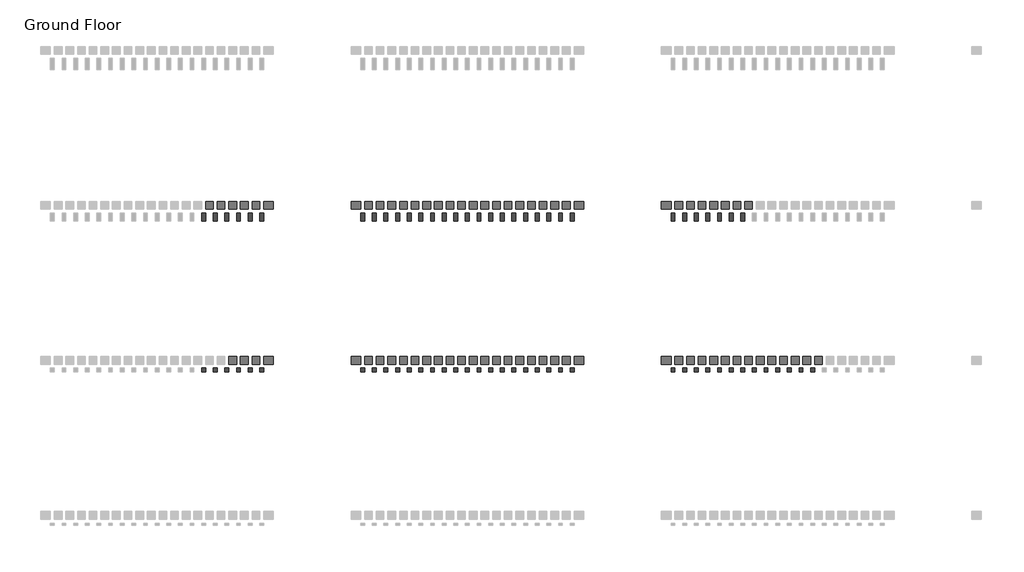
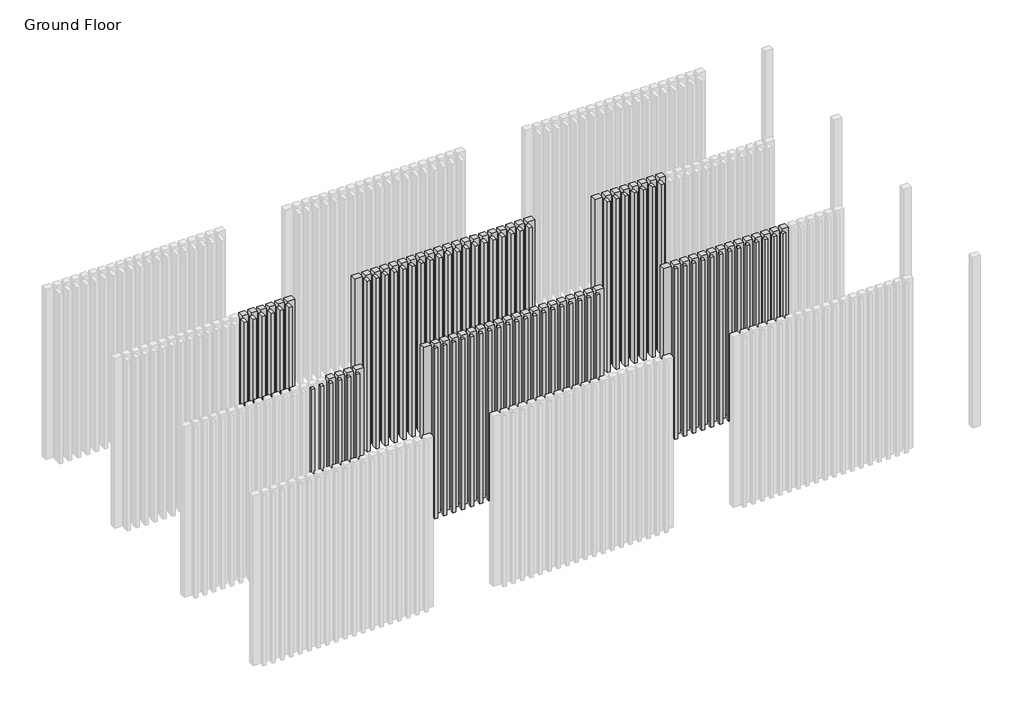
# One storey, part 14 of 350: 72 plates, 70 members.
"""IFC4 building model written with IfcOpenShell, lengths in millimetres."""

from ifc_helpers import new_model, si_unit, origin, place, context, project, spatial, transform, mapped, element, save
from components import rectangular_mullion_1e7650be, rectangular_mullion_e9fc8109, empty_system_panel_empty_a8601f27, empty_system_panel_empty_23ba90fe, empty_system_panel_empty_02e968fa

model = new_model("IFC4")

# Units and contexts
model_context = context("Model", 3, world=origin())
ifc_project = project(units=[si_unit("LENGTHUNIT", "METRE", prefix="MILLI")], contexts=[model_context])

# Site, building, storey
site = spatial("IfcSite", under=ifc_project)
building = spatial("IfcBuilding", under=site)
storey = spatial("IfcBuildingStorey", under=building, Name="Ground Floor", Elevation=0.0)

# Members
placement = place(None, origin())
rectangular_mullion_shape = rectangular_mullion_1e7650be(model_context)
element("IfcMember", 1, ObjectType="Rectangular Mullion : Batten_Aluminium_Modinex_AluBatten_50x50_Cedar", at=placement, inside=storey, context=model_context, shape_type="MappedRepresentation", body=[
    mapped(rectangular_mullion_shape, transform((8016.4361642, 20968.2978302, 0.0), x_axis=(1.0, 0.0, 0.0), y_axis=(0.0, -1.0, 0.0), z_axis=(0.0, 0.0, -1.0))),
])
element("IfcMember", 2, ObjectType="Rectangular Mullion : Batten_Aluminium_Modinex_AluBatten_50x50_Cedar", at=placement, inside=storey, context=model_context, shape_type="MappedRepresentation", body=[
    mapped(rectangular_mullion_shape, transform((8166.4361642, 20968.2978302, 0.0), x_axis=(1.0, 0.0, 0.0), y_axis=(0.0, -1.0, 0.0), z_axis=(0.0, 0.0, -1.0))),
])
element("IfcMember", 3, ObjectType="Rectangular Mullion : Batten_Aluminium_Modinex_AluBatten_50x50_Cedar", at=placement, inside=storey, context=model_context, shape_type="MappedRepresentation", body=[
    mapped(rectangular_mullion_shape, transform((8316.4361642, 20968.2978302, 0.0), x_axis=(1.0, 0.0, 0.0), y_axis=(0.0, -1.0, 0.0), z_axis=(0.0, 0.0, -1.0))),
])
element("IfcMember", 4, ObjectType="Rectangular Mullion : Batten_Aluminium_Modinex_AluBatten_50x50_Cedar", at=placement, inside=storey, context=model_context, shape_type="MappedRepresentation", body=[
    mapped(rectangular_mullion_shape, transform((8466.4361642, 20968.2978302, 0.0), x_axis=(1.0, 0.0, 0.0), y_axis=(0.0, -1.0, 0.0), z_axis=(0.0, 0.0, -1.0))),
])
element("IfcMember", 5, ObjectType="Rectangular Mullion : Batten_Aluminium_Modinex_AluBatten_50x50_Cedar", at=placement, inside=storey, context=model_context, shape_type="MappedRepresentation", body=[
    mapped(rectangular_mullion_shape, transform((8616.4361642, 20968.2978302, 0.0), x_axis=(1.0, 0.0, 0.0), y_axis=(0.0, -1.0, 0.0), z_axis=(0.0, 0.0, -1.0))),
])
element("IfcMember", 6, ObjectType="Rectangular Mullion : Batten_Aluminium_Modinex_AluBatten_50x50_Cedar", at=placement, inside=storey, context=model_context, shape_type="MappedRepresentation", body=[
    mapped(rectangular_mullion_shape, transform((8766.4361642, 20968.2978302, 0.0), x_axis=(1.0, 0.0, 0.0), y_axis=(0.0, -1.0, 0.0), z_axis=(0.0, 0.0, -1.0))),
])
rectangular_mullion_2_shape = rectangular_mullion_e9fc8109(model_context)
element("IfcMember", 7, ObjectType="Rectangular Mullion : Batten_Aluminium_Modinex_AluBatten_50x100_EnglishOak", at=placement, inside=storey, context=model_context, shape_type="MappedRepresentation", body=[
    mapped(rectangular_mullion_2_shape, transform((10066.4361642, 22968.2978302, 0.0), x_axis=(1.0, 0.0, 0.0), y_axis=(0.0, -1.0, 0.0), z_axis=(0.0, 0.0, -1.0))),
])
element("IfcMember", 8, ObjectType="Rectangular Mullion : Batten_Aluminium_Modinex_AluBatten_50x100_EnglishOak", at=placement, inside=storey, context=model_context, shape_type="MappedRepresentation", body=[
    mapped(rectangular_mullion_2_shape, transform((10216.4361642, 22968.2978302, 0.0), x_axis=(1.0, 0.0, 0.0), y_axis=(0.0, -1.0, 0.0), z_axis=(0.0, 0.0, -1.0))),
])
element("IfcMember", 9, ObjectType="Rectangular Mullion : Batten_Aluminium_Modinex_AluBatten_50x100_EnglishOak", at=placement, inside=storey, context=model_context, shape_type="MappedRepresentation", body=[
    mapped(rectangular_mullion_2_shape, transform((10366.4361642, 22968.2978302, 0.0), x_axis=(1.0, 0.0, 0.0), y_axis=(0.0, -1.0, 0.0), z_axis=(0.0, 0.0, -1.0))),
])
element("IfcMember", 10, ObjectType="Rectangular Mullion : Batten_Aluminium_Modinex_AluBatten_50x100_EnglishOak", at=placement, inside=storey, context=model_context, shape_type="MappedRepresentation", body=[
    mapped(rectangular_mullion_2_shape, transform((10516.4361642, 22968.2978302, 0.0), x_axis=(1.0, 0.0, 0.0), y_axis=(0.0, -1.0, 0.0), z_axis=(0.0, 0.0, -1.0))),
])
element("IfcMember", 11, ObjectType="Rectangular Mullion : Batten_Aluminium_Modinex_AluBatten_50x100_EnglishOak", at=placement, inside=storey, context=model_context, shape_type="MappedRepresentation", body=[
    mapped(rectangular_mullion_2_shape, transform((10666.4361642, 22968.2978302, 0.0), x_axis=(1.0, 0.0, 0.0), y_axis=(0.0, -1.0, 0.0), z_axis=(0.0, 0.0, -1.0))),
])
element("IfcMember", 12, ObjectType="Rectangular Mullion : Batten_Aluminium_Modinex_AluBatten_50x100_EnglishOak", at=placement, inside=storey, context=model_context, shape_type="MappedRepresentation", body=[
    mapped(rectangular_mullion_2_shape, transform((10816.4361642, 22968.2978302, 0.0), x_axis=(1.0, 0.0, 0.0), y_axis=(0.0, -1.0, 0.0), z_axis=(0.0, 0.0, -1.0))),
])
element("IfcMember", 13, ObjectType="Rectangular Mullion : Batten_Aluminium_Modinex_AluBatten_50x100_EnglishOak", at=placement, inside=storey, context=model_context, shape_type="MappedRepresentation", body=[
    mapped(rectangular_mullion_2_shape, transform((10966.4361642, 22968.2978302, 0.0), x_axis=(1.0, 0.0, 0.0), y_axis=(0.0, -1.0, 0.0), z_axis=(0.0, 0.0, -1.0))),
])
element("IfcMember", 14, ObjectType="Rectangular Mullion : Batten_Aluminium_Modinex_AluBatten_50x100_EnglishOak", at=placement, inside=storey, context=model_context, shape_type="MappedRepresentation", body=[
    mapped(rectangular_mullion_2_shape, transform((11116.4361642, 22968.2978302, 0.0), x_axis=(1.0, 0.0, 0.0), y_axis=(0.0, -1.0, 0.0), z_axis=(0.0, 0.0, -1.0))),
])
element("IfcMember", 15, ObjectType="Rectangular Mullion : Batten_Aluminium_Modinex_AluBatten_50x100_EnglishOak", at=placement, inside=storey, context=model_context, shape_type="MappedRepresentation", body=[
    mapped(rectangular_mullion_2_shape, transform((11266.4361642, 22968.2978302, 0.0), x_axis=(1.0, 0.0, 0.0), y_axis=(0.0, -1.0, 0.0), z_axis=(0.0, 0.0, -1.0))),
])
element("IfcMember", 16, ObjectType="Rectangular Mullion : Batten_Aluminium_Modinex_AluBatten_50x100_EnglishOak", at=placement, inside=storey, context=model_context, shape_type="MappedRepresentation", body=[
    mapped(rectangular_mullion_2_shape, transform((11416.4361642, 22968.2978302, 0.0), x_axis=(1.0, 0.0, 0.0), y_axis=(0.0, -1.0, 0.0), z_axis=(0.0, 0.0, -1.0))),
])
element("IfcMember", 17, ObjectType="Rectangular Mullion : Batten_Aluminium_Modinex_AluBatten_50x100_EnglishOak", at=placement, inside=storey, context=model_context, shape_type="MappedRepresentation", body=[
    mapped(rectangular_mullion_2_shape, transform((11566.4361642, 22968.2978302, 0.0), x_axis=(1.0, 0.0, 0.0), y_axis=(0.0, -1.0, 0.0), z_axis=(0.0, 0.0, -1.0))),
])
element("IfcMember", 18, ObjectType="Rectangular Mullion : Batten_Aluminium_Modinex_AluBatten_50x100_EnglishOak", at=placement, inside=storey, context=model_context, shape_type="MappedRepresentation", body=[
    mapped(rectangular_mullion_2_shape, transform((11716.4361642, 22968.2978302, 0.0), x_axis=(1.0, 0.0, 0.0), y_axis=(0.0, -1.0, 0.0), z_axis=(0.0, 0.0, -1.0))),
])
element("IfcMember", 19, ObjectType="Rectangular Mullion : Batten_Aluminium_Modinex_AluBatten_50x100_EnglishOak", at=placement, inside=storey, context=model_context, shape_type="MappedRepresentation", body=[
    mapped(rectangular_mullion_2_shape, transform((11866.4361642, 22968.2978302, 0.0), x_axis=(1.0, 0.0, 0.0), y_axis=(0.0, -1.0, 0.0), z_axis=(0.0, 0.0, -1.0))),
])
element("IfcMember", 20, ObjectType="Rectangular Mullion : Batten_Aluminium_Modinex_AluBatten_50x100_EnglishOak", at=placement, inside=storey, context=model_context, shape_type="MappedRepresentation", body=[
    mapped(rectangular_mullion_2_shape, transform((12016.4361642, 22968.2978302, 0.0), x_axis=(1.0, 0.0, 0.0), y_axis=(0.0, -1.0, 0.0), z_axis=(0.0, 0.0, -1.0))),
])
element("IfcMember", 21, ObjectType="Rectangular Mullion : Batten_Aluminium_Modinex_AluBatten_50x100_EnglishOak", at=placement, inside=storey, context=model_context, shape_type="MappedRepresentation", body=[
    mapped(rectangular_mullion_2_shape, transform((12166.4361642, 22968.2978302, 0.0), x_axis=(1.0, 0.0, 0.0), y_axis=(0.0, -1.0, 0.0), z_axis=(0.0, 0.0, -1.0))),
])
element("IfcMember", 22, ObjectType="Rectangular Mullion : Batten_Aluminium_Modinex_AluBatten_50x100_EnglishOak", at=placement, inside=storey, context=model_context, shape_type="MappedRepresentation", body=[
    mapped(rectangular_mullion_2_shape, transform((12316.4361642, 22968.2978302, 0.0), x_axis=(1.0, 0.0, 0.0), y_axis=(0.0, -1.0, 0.0), z_axis=(0.0, 0.0, -1.0))),
])
element("IfcMember", 23, ObjectType="Rectangular Mullion : Batten_Aluminium_Modinex_AluBatten_50x100_EnglishOak", at=placement, inside=storey, context=model_context, shape_type="MappedRepresentation", body=[
    mapped(rectangular_mullion_2_shape, transform((12466.4361642, 22968.2978302, 0.0), x_axis=(1.0, 0.0, 0.0), y_axis=(0.0, -1.0, 0.0), z_axis=(0.0, 0.0, -1.0))),
])
element("IfcMember", 24, ObjectType="Rectangular Mullion : Batten_Aluminium_Modinex_AluBatten_50x100_EnglishOak", at=placement, inside=storey, context=model_context, shape_type="MappedRepresentation", body=[
    mapped(rectangular_mullion_2_shape, transform((12616.4361642, 22968.2978302, 0.0), x_axis=(1.0, 0.0, 0.0), y_axis=(0.0, -1.0, 0.0), z_axis=(0.0, 0.0, -1.0))),
])
element("IfcMember", 25, ObjectType="Rectangular Mullion : Batten_Aluminium_Modinex_AluBatten_50x100_EnglishOak", at=placement, inside=storey, context=model_context, shape_type="MappedRepresentation", body=[
    mapped(rectangular_mullion_2_shape, transform((12766.4361642, 22968.2978302, 0.0), x_axis=(1.0, 0.0, 0.0), y_axis=(0.0, -1.0, 0.0), z_axis=(0.0, 0.0, -1.0))),
])
element("IfcMember", 26, ObjectType="Rectangular Mullion : Batten_Aluminium_Modinex_AluBatten_50x50_EnglishOak", at=placement, inside=storey, context=model_context, shape_type="MappedRepresentation", body=[
    mapped(rectangular_mullion_shape, transform((10066.4361642, 20968.2978302, 0.0), x_axis=(1.0, 0.0, 0.0), y_axis=(0.0, -1.0, 0.0), z_axis=(0.0, 0.0, -1.0))),
])
element("IfcMember", 27, ObjectType="Rectangular Mullion : Batten_Aluminium_Modinex_AluBatten_50x50_EnglishOak", at=placement, inside=storey, context=model_context, shape_type="MappedRepresentation", body=[
    mapped(rectangular_mullion_shape, transform((10216.4361642, 20968.2978302, 0.0), x_axis=(1.0, 0.0, 0.0), y_axis=(0.0, -1.0, 0.0), z_axis=(0.0, 0.0, -1.0))),
])
element("IfcMember", 28, ObjectType="Rectangular Mullion : Batten_Aluminium_Modinex_AluBatten_50x50_EnglishOak", at=placement, inside=storey, context=model_context, shape_type="MappedRepresentation", body=[
    mapped(rectangular_mullion_shape, transform((10366.4361642, 20968.2978302, 0.0), x_axis=(1.0, 0.0, 0.0), y_axis=(0.0, -1.0, 0.0), z_axis=(0.0, 0.0, -1.0))),
])
element("IfcMember", 29, ObjectType="Rectangular Mullion : Batten_Aluminium_Modinex_AluBatten_50x50_EnglishOak", at=placement, inside=storey, context=model_context, shape_type="MappedRepresentation", body=[
    mapped(rectangular_mullion_shape, transform((10516.4361642, 20968.2978302, 0.0), x_axis=(1.0, 0.0, 0.0), y_axis=(0.0, -1.0, 0.0), z_axis=(0.0, 0.0, -1.0))),
])
element("IfcMember", 30, ObjectType="Rectangular Mullion : Batten_Aluminium_Modinex_AluBatten_50x50_EnglishOak", at=placement, inside=storey, context=model_context, shape_type="MappedRepresentation", body=[
    mapped(rectangular_mullion_shape, transform((10666.4361642, 20968.2978302, 0.0), x_axis=(1.0, 0.0, 0.0), y_axis=(0.0, -1.0, 0.0), z_axis=(0.0, 0.0, -1.0))),
])
element("IfcMember", 31, ObjectType="Rectangular Mullion : Batten_Aluminium_Modinex_AluBatten_50x50_EnglishOak", at=placement, inside=storey, context=model_context, shape_type="MappedRepresentation", body=[
    mapped(rectangular_mullion_shape, transform((10816.4361642, 20968.2978302, 0.0), x_axis=(1.0, 0.0, 0.0), y_axis=(0.0, -1.0, 0.0), z_axis=(0.0, 0.0, -1.0))),
])
element("IfcMember", 32, ObjectType="Rectangular Mullion : Batten_Aluminium_Modinex_AluBatten_50x50_EnglishOak", at=placement, inside=storey, context=model_context, shape_type="MappedRepresentation", body=[
    mapped(rectangular_mullion_shape, transform((10966.4361642, 20968.2978302, 0.0), x_axis=(1.0, 0.0, 0.0), y_axis=(0.0, -1.0, 0.0), z_axis=(0.0, 0.0, -1.0))),
])
element("IfcMember", 33, ObjectType="Rectangular Mullion : Batten_Aluminium_Modinex_AluBatten_50x50_EnglishOak", at=placement, inside=storey, context=model_context, shape_type="MappedRepresentation", body=[
    mapped(rectangular_mullion_shape, transform((11116.4361642, 20968.2978302, 0.0), x_axis=(1.0, 0.0, 0.0), y_axis=(0.0, -1.0, 0.0), z_axis=(0.0, 0.0, -1.0))),
])
element("IfcMember", 34, ObjectType="Rectangular Mullion : Batten_Aluminium_Modinex_AluBatten_50x50_EnglishOak", at=placement, inside=storey, context=model_context, shape_type="MappedRepresentation", body=[
    mapped(rectangular_mullion_shape, transform((11266.4361642, 20968.2978302, 0.0), x_axis=(1.0, 0.0, 0.0), y_axis=(0.0, -1.0, 0.0), z_axis=(0.0, 0.0, -1.0))),
])
element("IfcMember", 35, ObjectType="Rectangular Mullion : Batten_Aluminium_Modinex_AluBatten_50x50_EnglishOak", at=placement, inside=storey, context=model_context, shape_type="MappedRepresentation", body=[
    mapped(rectangular_mullion_shape, transform((11416.4361642, 20968.2978302, 0.0), x_axis=(1.0, 0.0, 0.0), y_axis=(0.0, -1.0, 0.0), z_axis=(0.0, 0.0, -1.0))),
])
element("IfcMember", 36, ObjectType="Rectangular Mullion : Batten_Aluminium_Modinex_AluBatten_50x50_EnglishOak", at=placement, inside=storey, context=model_context, shape_type="MappedRepresentation", body=[
    mapped(rectangular_mullion_shape, transform((11566.4361642, 20968.2978302, 0.0), x_axis=(1.0, 0.0, 0.0), y_axis=(0.0, -1.0, 0.0), z_axis=(0.0, 0.0, -1.0))),
])
element("IfcMember", 37, ObjectType="Rectangular Mullion : Batten_Aluminium_Modinex_AluBatten_50x50_EnglishOak", at=placement, inside=storey, context=model_context, shape_type="MappedRepresentation", body=[
    mapped(rectangular_mullion_shape, transform((11716.4361642, 20968.2978302, 0.0), x_axis=(1.0, 0.0, 0.0), y_axis=(0.0, -1.0, 0.0), z_axis=(0.0, 0.0, -1.0))),
])
element("IfcMember", 38, ObjectType="Rectangular Mullion : Batten_Aluminium_Modinex_AluBatten_50x50_EnglishOak", at=placement, inside=storey, context=model_context, shape_type="MappedRepresentation", body=[
    mapped(rectangular_mullion_shape, transform((11866.4361642, 20968.2978302, 0.0), x_axis=(1.0, 0.0, 0.0), y_axis=(0.0, -1.0, 0.0), z_axis=(0.0, 0.0, -1.0))),
])
element("IfcMember", 39, ObjectType="Rectangular Mullion : Batten_Aluminium_Modinex_AluBatten_50x50_EnglishOak", at=placement, inside=storey, context=model_context, shape_type="MappedRepresentation", body=[
    mapped(rectangular_mullion_shape, transform((12016.4361642, 20968.2978302, 0.0), x_axis=(1.0, 0.0, 0.0), y_axis=(0.0, -1.0, 0.0), z_axis=(0.0, 0.0, -1.0))),
])
element("IfcMember", 40, ObjectType="Rectangular Mullion : Batten_Aluminium_Modinex_AluBatten_50x50_EnglishOak", at=placement, inside=storey, context=model_context, shape_type="MappedRepresentation", body=[
    mapped(rectangular_mullion_shape, transform((12166.4361642, 20968.2978302, 0.0), x_axis=(1.0, 0.0, 0.0), y_axis=(0.0, -1.0, 0.0), z_axis=(0.0, 0.0, -1.0))),
])
element("IfcMember", 41, ObjectType="Rectangular Mullion : Batten_Aluminium_Modinex_AluBatten_50x50_EnglishOak", at=placement, inside=storey, context=model_context, shape_type="MappedRepresentation", body=[
    mapped(rectangular_mullion_shape, transform((12316.4361642, 20968.2978302, 0.0), x_axis=(1.0, 0.0, 0.0), y_axis=(0.0, -1.0, 0.0), z_axis=(0.0, 0.0, -1.0))),
])
element("IfcMember", 42, ObjectType="Rectangular Mullion : Batten_Aluminium_Modinex_AluBatten_50x50_EnglishOak", at=placement, inside=storey, context=model_context, shape_type="MappedRepresentation", body=[
    mapped(rectangular_mullion_shape, transform((12466.4361642, 20968.2978302, 0.0), x_axis=(1.0, 0.0, 0.0), y_axis=(0.0, -1.0, 0.0), z_axis=(0.0, 0.0, -1.0))),
])
element("IfcMember", 43, ObjectType="Rectangular Mullion : Batten_Aluminium_Modinex_AluBatten_50x50_EnglishOak", at=placement, inside=storey, context=model_context, shape_type="MappedRepresentation", body=[
    mapped(rectangular_mullion_shape, transform((12616.4361642, 20968.2978302, 0.0), x_axis=(1.0, 0.0, 0.0), y_axis=(0.0, -1.0, 0.0), z_axis=(0.0, 0.0, -1.0))),
])
element("IfcMember", 44, ObjectType="Rectangular Mullion : Batten_Aluminium_Modinex_AluBatten_50x50_EnglishOak", at=placement, inside=storey, context=model_context, shape_type="MappedRepresentation", body=[
    mapped(rectangular_mullion_shape, transform((12766.4361642, 20968.2978302, 0.0), x_axis=(1.0, 0.0, 0.0), y_axis=(0.0, -1.0, 0.0), z_axis=(0.0, 0.0, -1.0))),
])
element("IfcMember", 45, ObjectType="Rectangular Mullion : Batten_Aluminium_Modinex_AluBatten_50x50_SpottedGum", at=placement, inside=storey, context=model_context, shape_type="MappedRepresentation", body=[
    mapped(rectangular_mullion_shape, transform((14066.4361642, 20968.2978302, 0.0), x_axis=(1.0, 0.0, 0.0), y_axis=(0.0, -1.0, 0.0), z_axis=(0.0, 0.0, -1.0))),
])
element("IfcMember", 46, ObjectType="Rectangular Mullion : Batten_Aluminium_Modinex_AluBatten_50x50_SpottedGum", at=placement, inside=storey, context=model_context, shape_type="MappedRepresentation", body=[
    mapped(rectangular_mullion_shape, transform((14216.4361642, 20968.2978302, 0.0), x_axis=(1.0, 0.0, 0.0), y_axis=(0.0, -1.0, 0.0), z_axis=(0.0, 0.0, -1.0))),
])
element("IfcMember", 47, ObjectType="Rectangular Mullion : Batten_Aluminium_Modinex_AluBatten_50x50_SpottedGum", at=placement, inside=storey, context=model_context, shape_type="MappedRepresentation", body=[
    mapped(rectangular_mullion_shape, transform((14366.4361642, 20968.2978302, 0.0), x_axis=(1.0, 0.0, 0.0), y_axis=(0.0, -1.0, 0.0), z_axis=(0.0, 0.0, -1.0))),
])
element("IfcMember", 48, ObjectType="Rectangular Mullion : Batten_Aluminium_Modinex_AluBatten_50x50_SpottedGum", at=placement, inside=storey, context=model_context, shape_type="MappedRepresentation", body=[
    mapped(rectangular_mullion_shape, transform((14516.4361642, 20968.2978302, 0.0), x_axis=(1.0, 0.0, 0.0), y_axis=(0.0, -1.0, 0.0), z_axis=(0.0, 0.0, -1.0))),
])
element("IfcMember", 49, ObjectType="Rectangular Mullion : Batten_Aluminium_Modinex_AluBatten_50x50_SpottedGum", at=placement, inside=storey, context=model_context, shape_type="MappedRepresentation", body=[
    mapped(rectangular_mullion_shape, transform((14666.4361642, 20968.2978302, 0.0), x_axis=(1.0, 0.0, 0.0), y_axis=(0.0, -1.0, 0.0), z_axis=(0.0, 0.0, -1.0))),
])
element("IfcMember", 50, ObjectType="Rectangular Mullion : Batten_Aluminium_Modinex_AluBatten_50x50_SpottedGum", at=placement, inside=storey, context=model_context, shape_type="MappedRepresentation", body=[
    mapped(rectangular_mullion_shape, transform((14816.4361642, 20968.2978302, 0.0), x_axis=(1.0, 0.0, 0.0), y_axis=(0.0, -1.0, 0.0), z_axis=(0.0, 0.0, -1.0))),
])
element("IfcMember", 51, ObjectType="Rectangular Mullion : Batten_Aluminium_Modinex_AluBatten_50x50_SpottedGum", at=placement, inside=storey, context=model_context, shape_type="MappedRepresentation", body=[
    mapped(rectangular_mullion_shape, transform((14966.4361642, 20968.2978302, 0.0), x_axis=(1.0, 0.0, 0.0), y_axis=(0.0, -1.0, 0.0), z_axis=(0.0, 0.0, -1.0))),
])
element("IfcMember", 52, ObjectType="Rectangular Mullion : Batten_Aluminium_Modinex_AluBatten_50x50_SpottedGum", at=placement, inside=storey, context=model_context, shape_type="MappedRepresentation", body=[
    mapped(rectangular_mullion_shape, transform((15116.4361642, 20968.2978302, 0.0), x_axis=(1.0, 0.0, 0.0), y_axis=(0.0, -1.0, 0.0), z_axis=(0.0, 0.0, -1.0))),
])
element("IfcMember", 53, ObjectType="Rectangular Mullion : Batten_Aluminium_Modinex_AluBatten_50x50_SpottedGum", at=placement, inside=storey, context=model_context, shape_type="MappedRepresentation", body=[
    mapped(rectangular_mullion_shape, transform((15266.4361642, 20968.2978302, 0.0), x_axis=(1.0, 0.0, 0.0), y_axis=(0.0, -1.0, 0.0), z_axis=(0.0, 0.0, -1.0))),
])
element("IfcMember", 54, ObjectType="Rectangular Mullion : Batten_Aluminium_Modinex_AluBatten_50x50_SpottedGum", at=placement, inside=storey, context=model_context, shape_type="MappedRepresentation", body=[
    mapped(rectangular_mullion_shape, transform((15416.4361642, 20968.2978302, 0.0), x_axis=(1.0, 0.0, 0.0), y_axis=(0.0, -1.0, 0.0), z_axis=(0.0, 0.0, -1.0))),
])
element("IfcMember", 55, ObjectType="Rectangular Mullion : Batten_Aluminium_Modinex_AluBatten_50x50_SpottedGum", at=placement, inside=storey, context=model_context, shape_type="MappedRepresentation", body=[
    mapped(rectangular_mullion_shape, transform((15566.4361642, 20968.2978302, 0.0), x_axis=(1.0, 0.0, 0.0), y_axis=(0.0, -1.0, 0.0), z_axis=(0.0, 0.0, -1.0))),
])
element("IfcMember", 56, ObjectType="Rectangular Mullion : Batten_Aluminium_Modinex_AluBatten_50x50_SpottedGum", at=placement, inside=storey, context=model_context, shape_type="MappedRepresentation", body=[
    mapped(rectangular_mullion_shape, transform((15716.4361642, 20968.2978302, 0.0), x_axis=(1.0, 0.0, 0.0), y_axis=(0.0, -1.0, 0.0), z_axis=(0.0, 0.0, -1.0))),
])
element("IfcMember", 57, ObjectType="Rectangular Mullion : Batten_Aluminium_Modinex_AluBatten_50x50_SpottedGum", at=placement, inside=storey, context=model_context, shape_type="MappedRepresentation", body=[
    mapped(rectangular_mullion_shape, transform((15866.4361642, 20968.2978302, 0.0), x_axis=(1.0, 0.0, 0.0), y_axis=(0.0, -1.0, 0.0), z_axis=(0.0, 0.0, -1.0))),
])
element("IfcMember", 58, ObjectType="Rectangular Mullion : Batten_Aluminium_Modinex_AluBatten_50x100_Cedar", at=placement, inside=storey, context=model_context, shape_type="MappedRepresentation", body=[
    mapped(rectangular_mullion_2_shape, transform((8016.4361642, 22968.2978302, 0.0), x_axis=(1.0, 0.0, 0.0), y_axis=(0.0, -1.0, 0.0), z_axis=(0.0, 0.0, -1.0))),
])
element("IfcMember", 59, ObjectType="Rectangular Mullion : Batten_Aluminium_Modinex_AluBatten_50x100_Cedar", at=placement, inside=storey, context=model_context, shape_type="MappedRepresentation", body=[
    mapped(rectangular_mullion_2_shape, transform((8166.4361642, 22968.2978302, 0.0), x_axis=(1.0, 0.0, 0.0), y_axis=(0.0, -1.0, 0.0), z_axis=(0.0, 0.0, -1.0))),
])
element("IfcMember", 60, ObjectType="Rectangular Mullion : Batten_Aluminium_Modinex_AluBatten_50x100_Cedar", at=placement, inside=storey, context=model_context, shape_type="MappedRepresentation", body=[
    mapped(rectangular_mullion_2_shape, transform((8316.4361642, 22968.2978302, 0.0), x_axis=(1.0, 0.0, 0.0), y_axis=(0.0, -1.0, 0.0), z_axis=(0.0, 0.0, -1.0))),
])
element("IfcMember", 61, ObjectType="Rectangular Mullion : Batten_Aluminium_Modinex_AluBatten_50x100_Cedar", at=placement, inside=storey, context=model_context, shape_type="MappedRepresentation", body=[
    mapped(rectangular_mullion_2_shape, transform((8466.4361642, 22968.2978302, 0.0), x_axis=(1.0, 0.0, 0.0), y_axis=(0.0, -1.0, 0.0), z_axis=(0.0, 0.0, -1.0))),
])
element("IfcMember", 62, ObjectType="Rectangular Mullion : Batten_Aluminium_Modinex_AluBatten_50x100_Cedar", at=placement, inside=storey, context=model_context, shape_type="MappedRepresentation", body=[
    mapped(rectangular_mullion_2_shape, transform((8616.4361642, 22968.2978302, 0.0), x_axis=(1.0, 0.0, 0.0), y_axis=(0.0, -1.0, 0.0), z_axis=(0.0, 0.0, -1.0))),
])
element("IfcMember", 63, ObjectType="Rectangular Mullion : Batten_Aluminium_Modinex_AluBatten_50x100_Cedar", at=placement, inside=storey, context=model_context, shape_type="MappedRepresentation", body=[
    mapped(rectangular_mullion_2_shape, transform((8766.4361642, 22968.2978302, 0.0), x_axis=(1.0, 0.0, 0.0), y_axis=(0.0, -1.0, 0.0), z_axis=(0.0, 0.0, -1.0))),
])
element("IfcMember", 64, ObjectType="Rectangular Mullion : Batten_Aluminium_Modinex_AluBatten_50x100_SpottedGum", at=placement, inside=storey, context=model_context, shape_type="MappedRepresentation", body=[
    mapped(rectangular_mullion_2_shape, transform((14066.4361642, 22968.2978302, 0.0), x_axis=(1.0, 0.0, 0.0), y_axis=(0.0, -1.0, 0.0), z_axis=(0.0, 0.0, -1.0))),
])
element("IfcMember", 65, ObjectType="Rectangular Mullion : Batten_Aluminium_Modinex_AluBatten_50x100_SpottedGum", at=placement, inside=storey, context=model_context, shape_type="MappedRepresentation", body=[
    mapped(rectangular_mullion_2_shape, transform((14216.4361642, 22968.2978302, 0.0), x_axis=(1.0, 0.0, 0.0), y_axis=(0.0, -1.0, 0.0), z_axis=(0.0, 0.0, -1.0))),
])
element("IfcMember", 66, ObjectType="Rectangular Mullion : Batten_Aluminium_Modinex_AluBatten_50x100_SpottedGum", at=placement, inside=storey, context=model_context, shape_type="MappedRepresentation", body=[
    mapped(rectangular_mullion_2_shape, transform((14366.4361642, 22968.2978302, 0.0), x_axis=(1.0, 0.0, 0.0), y_axis=(0.0, -1.0, 0.0), z_axis=(0.0, 0.0, -1.0))),
])
element("IfcMember", 67, ObjectType="Rectangular Mullion : Batten_Aluminium_Modinex_AluBatten_50x100_SpottedGum", at=placement, inside=storey, context=model_context, shape_type="MappedRepresentation", body=[
    mapped(rectangular_mullion_2_shape, transform((14516.4361642, 22968.2978302, 0.0), x_axis=(1.0, 0.0, 0.0), y_axis=(0.0, -1.0, 0.0), z_axis=(0.0, 0.0, -1.0))),
])
element("IfcMember", 68, ObjectType="Rectangular Mullion : Batten_Aluminium_Modinex_AluBatten_50x100_SpottedGum", at=placement, inside=storey, context=model_context, shape_type="MappedRepresentation", body=[
    mapped(rectangular_mullion_2_shape, transform((14666.4361642, 22968.2978302, 0.0), x_axis=(1.0, 0.0, 0.0), y_axis=(0.0, -1.0, 0.0), z_axis=(0.0, 0.0, -1.0))),
])
element("IfcMember", 69, ObjectType="Rectangular Mullion : Batten_Aluminium_Modinex_AluBatten_50x100_SpottedGum", at=placement, inside=storey, context=model_context, shape_type="MappedRepresentation", body=[
    mapped(rectangular_mullion_2_shape, transform((14816.4361642, 22968.2978302, 0.0), x_axis=(1.0, 0.0, 0.0), y_axis=(0.0, -1.0, 0.0), z_axis=(0.0, 0.0, -1.0))),
])
element("IfcMember", 70, ObjectType="Rectangular Mullion : Batten_Aluminium_Modinex_AluBatten_50x100_SpottedGum", at=placement, inside=storey, context=model_context, shape_type="MappedRepresentation", body=[
    mapped(rectangular_mullion_2_shape, transform((14966.4361642, 22968.2978302, 0.0), x_axis=(1.0, 0.0, 0.0), y_axis=(0.0, -1.0, 0.0), z_axis=(0.0, 0.0, -1.0))),
])

# Plates
empty_system_panel_empty_shape = empty_system_panel_empty_a8601f27(model_context)
element("IfcPlate", 71, ObjectType="Empty System Panel : Empty", at=placement, inside=storey, context=model_context, shape_type="MappedRepresentation", body=[
    mapped(empty_system_panel_empty_shape, transform((9978.9361641, 20968.2978302, 0.0), x_axis=(1.0, 0.0, 0.0), y_axis=(0.0, 1.0, 0.0), z_axis=(0.0, 0.0, 1.0))),
])
element("IfcPlate", 72, ObjectType="Empty System Panel : Empty", at=placement, inside=storey, context=model_context, shape_type="MappedRepresentation", body=[
    mapped(empty_system_panel_empty_shape, transform((13978.9361641, 20968.2978302, 0.0), x_axis=(1.0, 0.0, 0.0), y_axis=(0.0, 1.0, 0.0), z_axis=(0.0, 0.0, 1.0))),
])
element("IfcPlate", 73, ObjectType="Empty System Panel : Empty", at=placement, inside=storey, context=model_context, shape_type="MappedRepresentation", body=[
    mapped(empty_system_panel_empty_shape, transform((9978.9361641, 22968.2978302, 0.0), x_axis=(1.0, 0.0, 0.0), y_axis=(0.0, 1.0, 0.0), z_axis=(0.0, 0.0, 1.0))),
])
element("IfcPlate", 74, ObjectType="Empty System Panel : Empty", at=placement, inside=storey, context=model_context, shape_type="MappedRepresentation", body=[
    mapped(empty_system_panel_empty_shape, transform((13978.9361641, 22968.2978302, 0.0), x_axis=(1.0, 0.0, 0.0), y_axis=(0.0, 1.0, 0.0), z_axis=(0.0, 0.0, 1.0))),
])
empty_system_panel_empty_2_shape = empty_system_panel_empty_23ba90fe(model_context)
element("IfcPlate", 75, ObjectType="Empty System Panel : Empty", at=placement, inside=storey, context=model_context, shape_type="MappedRepresentation", body=[
    mapped(empty_system_panel_empty_2_shape, transform((8391.4361642, 20968.2978302, 0.0), x_axis=(1.0, 0.0, 0.0), y_axis=(0.0, 1.0, 0.0), z_axis=(0.0, 0.0, 1.0))),
])
element("IfcPlate", 76, ObjectType="Empty System Panel : Empty", at=placement, inside=storey, context=model_context, shape_type="MappedRepresentation", body=[
    mapped(empty_system_panel_empty_2_shape, transform((8541.4361642, 20968.2978302, 0.0), x_axis=(1.0, 0.0, 0.0), y_axis=(0.0, 1.0, 0.0), z_axis=(0.0, 0.0, 1.0))),
])
element("IfcPlate", 77, ObjectType="Empty System Panel : Empty", at=placement, inside=storey, context=model_context, shape_type="MappedRepresentation", body=[
    mapped(empty_system_panel_empty_2_shape, transform((8691.4361642, 20968.2978302, 0.0), x_axis=(1.0, 0.0, 0.0), y_axis=(0.0, 1.0, 0.0), z_axis=(0.0, 0.0, 1.0))),
])
element("IfcPlate", 78, ObjectType="Empty System Panel : Empty", at=placement, inside=storey, context=model_context, shape_type="MappedRepresentation", body=[
    mapped(empty_system_panel_empty_2_shape, transform((10141.4361642, 20968.2978302, 0.0), x_axis=(1.0, 0.0, 0.0), y_axis=(0.0, 1.0, 0.0), z_axis=(0.0, 0.0, 1.0))),
])
element("IfcPlate", 79, ObjectType="Empty System Panel : Empty", at=placement, inside=storey, context=model_context, shape_type="MappedRepresentation", body=[
    mapped(empty_system_panel_empty_2_shape, transform((10291.4361642, 20968.2978302, 0.0), x_axis=(1.0, 0.0, 0.0), y_axis=(0.0, 1.0, 0.0), z_axis=(0.0, 0.0, 1.0))),
])
element("IfcPlate", 80, ObjectType="Empty System Panel : Empty", at=placement, inside=storey, context=model_context, shape_type="MappedRepresentation", body=[
    mapped(empty_system_panel_empty_2_shape, transform((10441.4361642, 20968.2978302, 0.0), x_axis=(1.0, 0.0, 0.0), y_axis=(0.0, 1.0, 0.0), z_axis=(0.0, 0.0, 1.0))),
])
element("IfcPlate", 81, ObjectType="Empty System Panel : Empty", at=placement, inside=storey, context=model_context, shape_type="MappedRepresentation", body=[
    mapped(empty_system_panel_empty_2_shape, transform((10591.4361642, 20968.2978302, 0.0), x_axis=(1.0, 0.0, 0.0), y_axis=(0.0, 1.0, 0.0), z_axis=(0.0, 0.0, 1.0))),
])
element("IfcPlate", 82, ObjectType="Empty System Panel : Empty", at=placement, inside=storey, context=model_context, shape_type="MappedRepresentation", body=[
    mapped(empty_system_panel_empty_2_shape, transform((10741.4361642, 20968.2978302, 0.0), x_axis=(1.0, 0.0, 0.0), y_axis=(0.0, 1.0, 0.0), z_axis=(0.0, 0.0, 1.0))),
])
element("IfcPlate", 83, ObjectType="Empty System Panel : Empty", at=placement, inside=storey, context=model_context, shape_type="MappedRepresentation", body=[
    mapped(empty_system_panel_empty_2_shape, transform((10891.4361642, 20968.2978302, 0.0), x_axis=(1.0, 0.0, 0.0), y_axis=(0.0, 1.0, 0.0), z_axis=(0.0, 0.0, 1.0))),
])
element("IfcPlate", 84, ObjectType="Empty System Panel : Empty", at=placement, inside=storey, context=model_context, shape_type="MappedRepresentation", body=[
    mapped(empty_system_panel_empty_2_shape, transform((11041.4361642, 20968.2978302, 0.0), x_axis=(1.0, 0.0, 0.0), y_axis=(0.0, 1.0, 0.0), z_axis=(0.0, 0.0, 1.0))),
])
element("IfcPlate", 85, ObjectType="Empty System Panel : Empty", at=placement, inside=storey, context=model_context, shape_type="MappedRepresentation", body=[
    mapped(empty_system_panel_empty_2_shape, transform((11191.4361642, 20968.2978302, 0.0), x_axis=(1.0, 0.0, 0.0), y_axis=(0.0, 1.0, 0.0), z_axis=(0.0, 0.0, 1.0))),
])
element("IfcPlate", 86, ObjectType="Empty System Panel : Empty", at=placement, inside=storey, context=model_context, shape_type="MappedRepresentation", body=[
    mapped(empty_system_panel_empty_2_shape, transform((11341.4361642, 20968.2978302, 0.0), x_axis=(1.0, 0.0, 0.0), y_axis=(0.0, 1.0, 0.0), z_axis=(0.0, 0.0, 1.0))),
])
element("IfcPlate", 87, ObjectType="Empty System Panel : Empty", at=placement, inside=storey, context=model_context, shape_type="MappedRepresentation", body=[
    mapped(empty_system_panel_empty_2_shape, transform((11491.4361642, 20968.2978302, 0.0), x_axis=(1.0, 0.0, 0.0), y_axis=(0.0, 1.0, 0.0), z_axis=(0.0, 0.0, 1.0))),
])
element("IfcPlate", 88, ObjectType="Empty System Panel : Empty", at=placement, inside=storey, context=model_context, shape_type="MappedRepresentation", body=[
    mapped(empty_system_panel_empty_2_shape, transform((11641.4361642, 20968.2978302, 0.0), x_axis=(1.0, 0.0, 0.0), y_axis=(0.0, 1.0, 0.0), z_axis=(0.0, 0.0, 1.0))),
])
element("IfcPlate", 89, ObjectType="Empty System Panel : Empty", at=placement, inside=storey, context=model_context, shape_type="MappedRepresentation", body=[
    mapped(empty_system_panel_empty_2_shape, transform((11791.4361642, 20968.2978302, 0.0), x_axis=(1.0, 0.0, 0.0), y_axis=(0.0, 1.0, 0.0), z_axis=(0.0, 0.0, 1.0))),
])
element("IfcPlate", 90, ObjectType="Empty System Panel : Empty", at=placement, inside=storey, context=model_context, shape_type="MappedRepresentation", body=[
    mapped(empty_system_panel_empty_2_shape, transform((11941.4361642, 20968.2978302, 0.0), x_axis=(1.0, 0.0, 0.0), y_axis=(0.0, 1.0, 0.0), z_axis=(0.0, 0.0, 1.0))),
])
element("IfcPlate", 91, ObjectType="Empty System Panel : Empty", at=placement, inside=storey, context=model_context, shape_type="MappedRepresentation", body=[
    mapped(empty_system_panel_empty_2_shape, transform((12091.4361642, 20968.2978302, 0.0), x_axis=(1.0, 0.0, 0.0), y_axis=(0.0, 1.0, 0.0), z_axis=(0.0, 0.0, 1.0))),
])
element("IfcPlate", 92, ObjectType="Empty System Panel : Empty", at=placement, inside=storey, context=model_context, shape_type="MappedRepresentation", body=[
    mapped(empty_system_panel_empty_2_shape, transform((12241.4361642, 20968.2978302, 0.0), x_axis=(1.0, 0.0, 0.0), y_axis=(0.0, 1.0, 0.0), z_axis=(0.0, 0.0, 1.0))),
])
element("IfcPlate", 93, ObjectType="Empty System Panel : Empty", at=placement, inside=storey, context=model_context, shape_type="MappedRepresentation", body=[
    mapped(empty_system_panel_empty_2_shape, transform((12391.4361642, 20968.2978302, 0.0), x_axis=(1.0, 0.0, 0.0), y_axis=(0.0, 1.0, 0.0), z_axis=(0.0, 0.0, 1.0))),
])
element("IfcPlate", 94, ObjectType="Empty System Panel : Empty", at=placement, inside=storey, context=model_context, shape_type="MappedRepresentation", body=[
    mapped(empty_system_panel_empty_2_shape, transform((12541.4361642, 20968.2978302, 0.0), x_axis=(1.0, 0.0, 0.0), y_axis=(0.0, 1.0, 0.0), z_axis=(0.0, 0.0, 1.0))),
])
element("IfcPlate", 95, ObjectType="Empty System Panel : Empty", at=placement, inside=storey, context=model_context, shape_type="MappedRepresentation", body=[
    mapped(empty_system_panel_empty_2_shape, transform((12691.4361642, 20968.2978302, 0.0), x_axis=(1.0, 0.0, 0.0), y_axis=(0.0, 1.0, 0.0), z_axis=(0.0, 0.0, 1.0))),
])
element("IfcPlate", 96, ObjectType="Empty System Panel : Empty", at=placement, inside=storey, context=model_context, shape_type="MappedRepresentation", body=[
    mapped(empty_system_panel_empty_2_shape, transform((14141.4361642, 20968.2978302, 0.0), x_axis=(1.0, 0.0, 0.0), y_axis=(0.0, 1.0, 0.0), z_axis=(0.0, 0.0, 1.0))),
])
element("IfcPlate", 97, ObjectType="Empty System Panel : Empty", at=placement, inside=storey, context=model_context, shape_type="MappedRepresentation", body=[
    mapped(empty_system_panel_empty_2_shape, transform((14291.4361642, 20968.2978302, 0.0), x_axis=(1.0, 0.0, 0.0), y_axis=(0.0, 1.0, 0.0), z_axis=(0.0, 0.0, 1.0))),
])
element("IfcPlate", 98, ObjectType="Empty System Panel : Empty", at=placement, inside=storey, context=model_context, shape_type="MappedRepresentation", body=[
    mapped(empty_system_panel_empty_2_shape, transform((14441.4361642, 20968.2978302, 0.0), x_axis=(1.0, 0.0, 0.0), y_axis=(0.0, 1.0, 0.0), z_axis=(0.0, 0.0, 1.0))),
])
element("IfcPlate", 99, ObjectType="Empty System Panel : Empty", at=placement, inside=storey, context=model_context, shape_type="MappedRepresentation", body=[
    mapped(empty_system_panel_empty_2_shape, transform((14591.4361642, 20968.2978302, 0.0), x_axis=(1.0, 0.0, 0.0), y_axis=(0.0, 1.0, 0.0), z_axis=(0.0, 0.0, 1.0))),
])
element("IfcPlate", 100, ObjectType="Empty System Panel : Empty", at=placement, inside=storey, context=model_context, shape_type="MappedRepresentation", body=[
    mapped(empty_system_panel_empty_2_shape, transform((14741.4361642, 20968.2978302, 0.0), x_axis=(1.0, 0.0, 0.0), y_axis=(0.0, 1.0, 0.0), z_axis=(0.0, 0.0, 1.0))),
])
element("IfcPlate", 101, ObjectType="Empty System Panel : Empty", at=placement, inside=storey, context=model_context, shape_type="MappedRepresentation", body=[
    mapped(empty_system_panel_empty_2_shape, transform((14891.4361642, 20968.2978302, 0.0), x_axis=(1.0, 0.0, 0.0), y_axis=(0.0, 1.0, 0.0), z_axis=(0.0, 0.0, 1.0))),
])
element("IfcPlate", 102, ObjectType="Empty System Panel : Empty", at=placement, inside=storey, context=model_context, shape_type="MappedRepresentation", body=[
    mapped(empty_system_panel_empty_2_shape, transform((15041.4361642, 20968.2978302, 0.0), x_axis=(1.0, 0.0, 0.0), y_axis=(0.0, 1.0, 0.0), z_axis=(0.0, 0.0, 1.0))),
])
element("IfcPlate", 103, ObjectType="Empty System Panel : Empty", at=placement, inside=storey, context=model_context, shape_type="MappedRepresentation", body=[
    mapped(empty_system_panel_empty_2_shape, transform((15191.4361642, 20968.2978302, 0.0), x_axis=(1.0, 0.0, 0.0), y_axis=(0.0, 1.0, 0.0), z_axis=(0.0, 0.0, 1.0))),
])
element("IfcPlate", 104, ObjectType="Empty System Panel : Empty", at=placement, inside=storey, context=model_context, shape_type="MappedRepresentation", body=[
    mapped(empty_system_panel_empty_2_shape, transform((15341.4361642, 20968.2978302, 0.0), x_axis=(1.0, 0.0, 0.0), y_axis=(0.0, 1.0, 0.0), z_axis=(0.0, 0.0, 1.0))),
])
element("IfcPlate", 105, ObjectType="Empty System Panel : Empty", at=placement, inside=storey, context=model_context, shape_type="MappedRepresentation", body=[
    mapped(empty_system_panel_empty_2_shape, transform((15491.4361642, 20968.2978302, 0.0), x_axis=(1.0, 0.0, 0.0), y_axis=(0.0, 1.0, 0.0), z_axis=(0.0, 0.0, 1.0))),
])
element("IfcPlate", 106, ObjectType="Empty System Panel : Empty", at=placement, inside=storey, context=model_context, shape_type="MappedRepresentation", body=[
    mapped(empty_system_panel_empty_2_shape, transform((15641.4361642, 20968.2978302, 0.0), x_axis=(1.0, 0.0, 0.0), y_axis=(0.0, 1.0, 0.0), z_axis=(0.0, 0.0, 1.0))),
])
element("IfcPlate", 107, ObjectType="Empty System Panel : Empty", at=placement, inside=storey, context=model_context, shape_type="MappedRepresentation", body=[
    mapped(empty_system_panel_empty_2_shape, transform((15791.4361642, 20968.2978302, 0.0), x_axis=(1.0, 0.0, 0.0), y_axis=(0.0, 1.0, 0.0), z_axis=(0.0, 0.0, 1.0))),
])
element("IfcPlate", 108, ObjectType="Empty System Panel : Empty", at=placement, inside=storey, context=model_context, shape_type="MappedRepresentation", body=[
    mapped(empty_system_panel_empty_2_shape, transform((15941.4361642, 20968.2978302, 0.0), x_axis=(1.0, 0.0, 0.0), y_axis=(0.0, 1.0, 0.0), z_axis=(0.0, 0.0, 1.0))),
])
element("IfcPlate", 109, ObjectType="Empty System Panel : Empty", at=placement, inside=storey, context=model_context, shape_type="MappedRepresentation", body=[
    mapped(empty_system_panel_empty_2_shape, transform((8091.4361642, 22968.2978302, 0.0), x_axis=(1.0, 0.0, 0.0), y_axis=(0.0, 1.0, 0.0), z_axis=(0.0, 0.0, 1.0))),
])
element("IfcPlate", 110, ObjectType="Empty System Panel : Empty", at=placement, inside=storey, context=model_context, shape_type="MappedRepresentation", body=[
    mapped(empty_system_panel_empty_2_shape, transform((8241.4361642, 22968.2978302, 0.0), x_axis=(1.0, 0.0, 0.0), y_axis=(0.0, 1.0, 0.0), z_axis=(0.0, 0.0, 1.0))),
])
element("IfcPlate", 111, ObjectType="Empty System Panel : Empty", at=placement, inside=storey, context=model_context, shape_type="MappedRepresentation", body=[
    mapped(empty_system_panel_empty_2_shape, transform((8391.4361642, 22968.2978302, 0.0), x_axis=(1.0, 0.0, 0.0), y_axis=(0.0, 1.0, 0.0), z_axis=(0.0, 0.0, 1.0))),
])
element("IfcPlate", 112, ObjectType="Empty System Panel : Empty", at=placement, inside=storey, context=model_context, shape_type="MappedRepresentation", body=[
    mapped(empty_system_panel_empty_2_shape, transform((8541.4361642, 22968.2978302, 0.0), x_axis=(1.0, 0.0, 0.0), y_axis=(0.0, 1.0, 0.0), z_axis=(0.0, 0.0, 1.0))),
])
element("IfcPlate", 113, ObjectType="Empty System Panel : Empty", at=placement, inside=storey, context=model_context, shape_type="MappedRepresentation", body=[
    mapped(empty_system_panel_empty_2_shape, transform((8691.4361642, 22968.2978302, 0.0), x_axis=(1.0, 0.0, 0.0), y_axis=(0.0, 1.0, 0.0), z_axis=(0.0, 0.0, 1.0))),
])
element("IfcPlate", 114, ObjectType="Empty System Panel : Empty", at=placement, inside=storey, context=model_context, shape_type="MappedRepresentation", body=[
    mapped(empty_system_panel_empty_2_shape, transform((10141.4361642, 22968.2978302, 0.0), x_axis=(1.0, 0.0, 0.0), y_axis=(0.0, 1.0, 0.0), z_axis=(0.0, 0.0, 1.0))),
])
element("IfcPlate", 115, ObjectType="Empty System Panel : Empty", at=placement, inside=storey, context=model_context, shape_type="MappedRepresentation", body=[
    mapped(empty_system_panel_empty_2_shape, transform((10291.4361642, 22968.2978302, 0.0), x_axis=(1.0, 0.0, 0.0), y_axis=(0.0, 1.0, 0.0), z_axis=(0.0, 0.0, 1.0))),
])
element("IfcPlate", 116, ObjectType="Empty System Panel : Empty", at=placement, inside=storey, context=model_context, shape_type="MappedRepresentation", body=[
    mapped(empty_system_panel_empty_2_shape, transform((10441.4361642, 22968.2978302, 0.0), x_axis=(1.0, 0.0, 0.0), y_axis=(0.0, 1.0, 0.0), z_axis=(0.0, 0.0, 1.0))),
])
element("IfcPlate", 117, ObjectType="Empty System Panel : Empty", at=placement, inside=storey, context=model_context, shape_type="MappedRepresentation", body=[
    mapped(empty_system_panel_empty_2_shape, transform((10591.4361642, 22968.2978302, 0.0), x_axis=(1.0, 0.0, 0.0), y_axis=(0.0, 1.0, 0.0), z_axis=(0.0, 0.0, 1.0))),
])
element("IfcPlate", 118, ObjectType="Empty System Panel : Empty", at=placement, inside=storey, context=model_context, shape_type="MappedRepresentation", body=[
    mapped(empty_system_panel_empty_2_shape, transform((10741.4361642, 22968.2978302, 0.0), x_axis=(1.0, 0.0, 0.0), y_axis=(0.0, 1.0, 0.0), z_axis=(0.0, 0.0, 1.0))),
])
element("IfcPlate", 119, ObjectType="Empty System Panel : Empty", at=placement, inside=storey, context=model_context, shape_type="MappedRepresentation", body=[
    mapped(empty_system_panel_empty_2_shape, transform((10891.4361642, 22968.2978302, 0.0), x_axis=(1.0, 0.0, 0.0), y_axis=(0.0, 1.0, 0.0), z_axis=(0.0, 0.0, 1.0))),
])
element("IfcPlate", 120, ObjectType="Empty System Panel : Empty", at=placement, inside=storey, context=model_context, shape_type="MappedRepresentation", body=[
    mapped(empty_system_panel_empty_2_shape, transform((11041.4361642, 22968.2978302, 0.0), x_axis=(1.0, 0.0, 0.0), y_axis=(0.0, 1.0, 0.0), z_axis=(0.0, 0.0, 1.0))),
])
element("IfcPlate", 121, ObjectType="Empty System Panel : Empty", at=placement, inside=storey, context=model_context, shape_type="MappedRepresentation", body=[
    mapped(empty_system_panel_empty_2_shape, transform((11191.4361642, 22968.2978302, 0.0), x_axis=(1.0, 0.0, 0.0), y_axis=(0.0, 1.0, 0.0), z_axis=(0.0, 0.0, 1.0))),
])
element("IfcPlate", 122, ObjectType="Empty System Panel : Empty", at=placement, inside=storey, context=model_context, shape_type="MappedRepresentation", body=[
    mapped(empty_system_panel_empty_2_shape, transform((11341.4361642, 22968.2978302, 0.0), x_axis=(1.0, 0.0, 0.0), y_axis=(0.0, 1.0, 0.0), z_axis=(0.0, 0.0, 1.0))),
])
element("IfcPlate", 123, ObjectType="Empty System Panel : Empty", at=placement, inside=storey, context=model_context, shape_type="MappedRepresentation", body=[
    mapped(empty_system_panel_empty_2_shape, transform((11491.4361642, 22968.2978302, 0.0), x_axis=(1.0, 0.0, 0.0), y_axis=(0.0, 1.0, 0.0), z_axis=(0.0, 0.0, 1.0))),
])
element("IfcPlate", 124, ObjectType="Empty System Panel : Empty", at=placement, inside=storey, context=model_context, shape_type="MappedRepresentation", body=[
    mapped(empty_system_panel_empty_2_shape, transform((11641.4361642, 22968.2978302, 0.0), x_axis=(1.0, 0.0, 0.0), y_axis=(0.0, 1.0, 0.0), z_axis=(0.0, 0.0, 1.0))),
])
element("IfcPlate", 125, ObjectType="Empty System Panel : Empty", at=placement, inside=storey, context=model_context, shape_type="MappedRepresentation", body=[
    mapped(empty_system_panel_empty_2_shape, transform((11791.4361642, 22968.2978302, 0.0), x_axis=(1.0, 0.0, 0.0), y_axis=(0.0, 1.0, 0.0), z_axis=(0.0, 0.0, 1.0))),
])
element("IfcPlate", 126, ObjectType="Empty System Panel : Empty", at=placement, inside=storey, context=model_context, shape_type="MappedRepresentation", body=[
    mapped(empty_system_panel_empty_2_shape, transform((11941.4361642, 22968.2978302, 0.0), x_axis=(1.0, 0.0, 0.0), y_axis=(0.0, 1.0, 0.0), z_axis=(0.0, 0.0, 1.0))),
])
element("IfcPlate", 127, ObjectType="Empty System Panel : Empty", at=placement, inside=storey, context=model_context, shape_type="MappedRepresentation", body=[
    mapped(empty_system_panel_empty_2_shape, transform((12091.4361642, 22968.2978302, 0.0), x_axis=(1.0, 0.0, 0.0), y_axis=(0.0, 1.0, 0.0), z_axis=(0.0, 0.0, 1.0))),
])
element("IfcPlate", 128, ObjectType="Empty System Panel : Empty", at=placement, inside=storey, context=model_context, shape_type="MappedRepresentation", body=[
    mapped(empty_system_panel_empty_2_shape, transform((12241.4361642, 22968.2978302, 0.0), x_axis=(1.0, 0.0, 0.0), y_axis=(0.0, 1.0, 0.0), z_axis=(0.0, 0.0, 1.0))),
])
element("IfcPlate", 129, ObjectType="Empty System Panel : Empty", at=placement, inside=storey, context=model_context, shape_type="MappedRepresentation", body=[
    mapped(empty_system_panel_empty_2_shape, transform((12391.4361642, 22968.2978302, 0.0), x_axis=(1.0, 0.0, 0.0), y_axis=(0.0, 1.0, 0.0), z_axis=(0.0, 0.0, 1.0))),
])
element("IfcPlate", 130, ObjectType="Empty System Panel : Empty", at=placement, inside=storey, context=model_context, shape_type="MappedRepresentation", body=[
    mapped(empty_system_panel_empty_2_shape, transform((12541.4361642, 22968.2978302, 0.0), x_axis=(1.0, 0.0, 0.0), y_axis=(0.0, 1.0, 0.0), z_axis=(0.0, 0.0, 1.0))),
])
element("IfcPlate", 131, ObjectType="Empty System Panel : Empty", at=placement, inside=storey, context=model_context, shape_type="MappedRepresentation", body=[
    mapped(empty_system_panel_empty_2_shape, transform((12691.4361642, 22968.2978302, 0.0), x_axis=(1.0, 0.0, 0.0), y_axis=(0.0, 1.0, 0.0), z_axis=(0.0, 0.0, 1.0))),
])
element("IfcPlate", 132, ObjectType="Empty System Panel : Empty", at=placement, inside=storey, context=model_context, shape_type="MappedRepresentation", body=[
    mapped(empty_system_panel_empty_2_shape, transform((14141.4361642, 22968.2978302, 0.0), x_axis=(1.0, 0.0, 0.0), y_axis=(0.0, 1.0, 0.0), z_axis=(0.0, 0.0, 1.0))),
])
element("IfcPlate", 133, ObjectType="Empty System Panel : Empty", at=placement, inside=storey, context=model_context, shape_type="MappedRepresentation", body=[
    mapped(empty_system_panel_empty_2_shape, transform((14291.4361642, 22968.2978302, 0.0), x_axis=(1.0, 0.0, 0.0), y_axis=(0.0, 1.0, 0.0), z_axis=(0.0, 0.0, 1.0))),
])
element("IfcPlate", 134, ObjectType="Empty System Panel : Empty", at=placement, inside=storey, context=model_context, shape_type="MappedRepresentation", body=[
    mapped(empty_system_panel_empty_2_shape, transform((14441.4361642, 22968.2978302, 0.0), x_axis=(1.0, 0.0, 0.0), y_axis=(0.0, 1.0, 0.0), z_axis=(0.0, 0.0, 1.0))),
])
element("IfcPlate", 135, ObjectType="Empty System Panel : Empty", at=placement, inside=storey, context=model_context, shape_type="MappedRepresentation", body=[
    mapped(empty_system_panel_empty_2_shape, transform((14591.4361642, 22968.2978302, 0.0), x_axis=(1.0, 0.0, 0.0), y_axis=(0.0, 1.0, 0.0), z_axis=(0.0, 0.0, 1.0))),
])
element("IfcPlate", 136, ObjectType="Empty System Panel : Empty", at=placement, inside=storey, context=model_context, shape_type="MappedRepresentation", body=[
    mapped(empty_system_panel_empty_2_shape, transform((14741.4361642, 22968.2978302, 0.0), x_axis=(1.0, 0.0, 0.0), y_axis=(0.0, 1.0, 0.0), z_axis=(0.0, 0.0, 1.0))),
])
element("IfcPlate", 137, ObjectType="Empty System Panel : Empty", at=placement, inside=storey, context=model_context, shape_type="MappedRepresentation", body=[
    mapped(empty_system_panel_empty_2_shape, transform((14891.4361642, 22968.2978302, 0.0), x_axis=(1.0, 0.0, 0.0), y_axis=(0.0, 1.0, 0.0), z_axis=(0.0, 0.0, 1.0))),
])
element("IfcPlate", 138, ObjectType="Empty System Panel : Empty", at=placement, inside=storey, context=model_context, shape_type="MappedRepresentation", body=[
    mapped(empty_system_panel_empty_2_shape, transform((15041.4361642, 22968.2978302, 0.0), x_axis=(1.0, 0.0, 0.0), y_axis=(0.0, 1.0, 0.0), z_axis=(0.0, 0.0, 1.0))),
])
empty_system_panel_empty_3_shape = empty_system_panel_empty_02e968fa(model_context)
element("IfcPlate", 139, ObjectType="Empty System Panel : Empty", at=placement, inside=storey, context=model_context, shape_type="MappedRepresentation", body=[
    mapped(empty_system_panel_empty_3_shape, transform((8853.9361641, 20968.2978302, 0.0), x_axis=(1.0, 0.0, 0.0), y_axis=(0.0, 1.0, 0.0), z_axis=(0.0, 0.0, 1.0))),
])
element("IfcPlate", 140, ObjectType="Empty System Panel : Empty", at=placement, inside=storey, context=model_context, shape_type="MappedRepresentation", body=[
    mapped(empty_system_panel_empty_3_shape, transform((12853.9361641, 20968.2978302, 0.0), x_axis=(1.0, 0.0, 0.0), y_axis=(0.0, 1.0, 0.0), z_axis=(0.0, 0.0, 1.0))),
])
element("IfcPlate", 141, ObjectType="Empty System Panel : Empty", at=placement, inside=storey, context=model_context, shape_type="MappedRepresentation", body=[
    mapped(empty_system_panel_empty_3_shape, transform((8853.9361641, 22968.2978302, 0.0), x_axis=(1.0, 0.0, 0.0), y_axis=(0.0, 1.0, 0.0), z_axis=(0.0, 0.0, 1.0))),
])
element("IfcPlate", 142, ObjectType="Empty System Panel : Empty", at=placement, inside=storey, context=model_context, shape_type="MappedRepresentation", body=[
    mapped(empty_system_panel_empty_3_shape, transform((12853.9361641, 22968.2978302, 0.0), x_axis=(1.0, 0.0, 0.0), y_axis=(0.0, 1.0, 0.0), z_axis=(0.0, 0.0, 1.0))),
])

save(model, "model.ifc")
